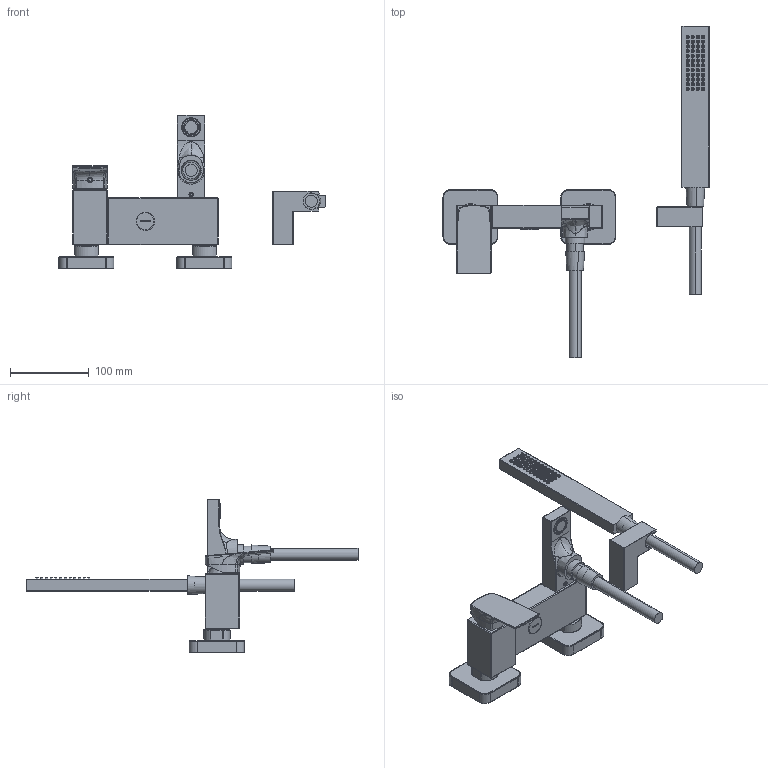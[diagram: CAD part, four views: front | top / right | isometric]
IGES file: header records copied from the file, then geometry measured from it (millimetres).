
Start section:  PTC IGES file: 3d_sw0001.igs
Global section: file name: 3d_sw0001.igs; native system: Creo Parametric by PTC Inc.; preprocessor: 2022014; author: volponeff; organization: Unknown; date: 20241007.142305; units: millimetre
Bounding box: 338.5 x 422.25 x 194.9 mm (x, y, z)
Surface area: 191061.1 mm2 (no closed solid volume)
Topology: 0 solids, 0 shells, 1267 faces, 5788 edges, 5785 vertices
Faces by surface type: revolution 841, bspline 424, extrusion 2
